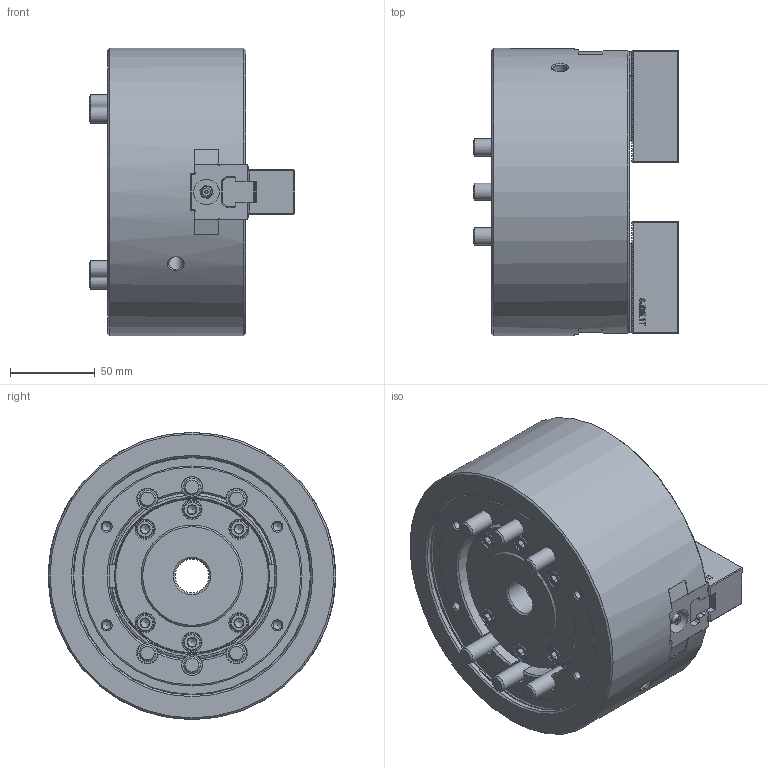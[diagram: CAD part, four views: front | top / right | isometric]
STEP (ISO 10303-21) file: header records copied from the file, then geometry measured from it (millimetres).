
FILE_DESCRIPTION (( 'STEP AP214' ), '1' );
FILE_NAME ('DT1_BT206_OUTSIDE_VIEW_HOL.STEP', '2024-05-09T00:00:21', ( '' ), ( '' ), 'SwSTEP 2.0', 'SolidWorks 2022', '' );
FILE_SCHEMA (( 'AUTOMOTIVE_DESIGN' ));
Length unit declared in the file: millimetre
Products named in the file (9): DT1_BT206_M5x10^DT1-BT206_ﾃﾞﾌｫﾙﾄ; DT1_BT206_M10x80^DT1-BT206_ﾃﾞﾌｫﾙﾄ; DT1_BT206_SOFTJAW^DT1-BT206_ﾃﾞﾌｫﾙﾄ; DT1_BT206_DRAWNUT^DT1-BT206_ﾃﾞﾌｫﾙﾄ; DT1_BT206_BASE^DT1-BT206_ﾃﾞﾌｫﾙﾄ; DT1_BT206_COVER^DT1-BT206_ﾃﾞﾌｫﾙﾄ; DT1_BT206_TNUT^DT1-BT206_ﾃﾞﾌｫﾙﾄ; DT1_BT206_OUTSIDE_VIEW_HOL; DT1_BT206_M10x25^DT1-BT206_ﾃﾞﾌｫﾙﾄ
Assembly tree (21 placements, depth 2):
  DT1_BT206_OUTSIDE_VIEW_HOL
    DT1_BT206_SOFTJAW^DT1-BT206_ﾃﾞﾌｫﾙﾄ  x2
    DT1_BT206_TNUT^DT1-BT206_ﾃﾞﾌｫﾙﾄ  x2
    DT1_BT206_DRAWNUT^DT1-BT206_ﾃﾞﾌｫﾙﾄ
    DT1_BT206_COVER^DT1-BT206_ﾃﾞﾌｫﾙﾄ
    DT1_BT206_BASE^DT1-BT206_ﾃﾞﾌｫﾙﾄ
    DT1_BT206_M5x10^DT1-BT206_ﾃﾞﾌｫﾙﾄ  x4
    DT1_BT206_M10x25^DT1-BT206_ﾃﾞﾌｫﾙﾄ  x4
    DT1_BT206_M10x80^DT1-BT206_ﾃﾞﾌｫﾙﾄ  x6
Bounding box: 121 x 169 x 169 mm (x, y, z)
Volume: 1653555 mm3; surface area: 234338.5 mm2
Topology: 21 solids, 29 shells, 2700 faces, 7460 edges, 4912 vertices
Faces by surface type: plane 1843, cylinder 328, bspline 271, cone 231, torus 25, sphere 2
Full cylindrical faces by diameter (mm): 2 x2, 4.2 x4, 5 x8, 5.5 x4, 8.5 x2, 8.6 x4, 9.5 x4, 10 x14, 10.22 x6, 11 x10, 12 x6, 15 x2, 16.27 x10, 17 x10, 20 x1, 45 x1, 48 x2, 55.5 x1, 57.8 x2, 60 x2, 65.5 x2, 90.7 x1, 91 x1, 140 x1, 140.8 x1, 169 x1
Entity records: 74423 total; most frequent: CARTESIAN_POINT 23773, ORIENTED_EDGE 11240, DIRECTION 8830, EDGE_CURVE 5620, VECTOR 3952, LINE 3952, VERTEX_POINT 3792, AXIS2_PLACEMENT_3D 2439
